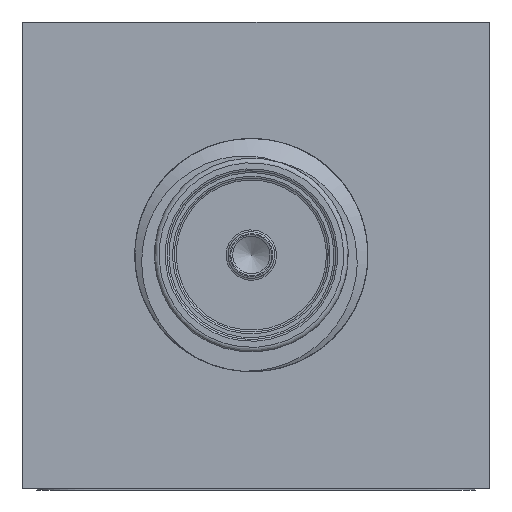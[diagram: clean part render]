
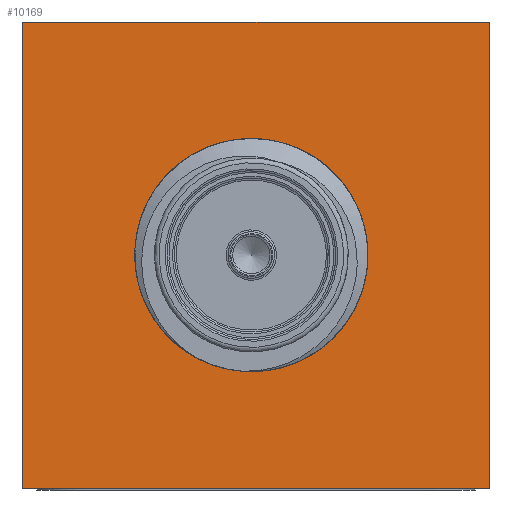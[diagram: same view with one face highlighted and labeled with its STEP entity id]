
A CAD part, left-side view. The second image highlights one B-rep face of the part: STEP entity #10169.
In plain terms, the highlighted planar face has unit normal (-1, 0, 0).
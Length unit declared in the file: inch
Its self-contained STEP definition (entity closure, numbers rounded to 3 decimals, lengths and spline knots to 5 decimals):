
#277 = EDGE_CURVE ( 'NONE', #15702, #12747, #11381, .T. ) ;
#337 = VECTOR ( 'NONE', #11410, 39.37008 ) ;
#1425 = CARTESIAN_POINT ( 'NONE',  ( 38.68632, 40.10366, 37.85561 ) ) ;
#1451 = DIRECTION ( 'NONE',  ( 0., 1., 0. ) ) ;
#2373 = FACE_OUTER_BOUND ( 'NONE', #4536, .T. ) ;
#2685 = PLANE ( 'NONE',  #2766 ) ;
#2766 = AXIS2_PLACEMENT_3D ( 'NONE', #1425, #19273, #7936 ) ;
#3129 = VECTOR ( 'NONE', #1451, 39.37008 ) ;
#4536 = EDGE_LOOP ( 'NONE', ( #17257, #11947, #12061, #13033 ) ) ;
#4842 = VERTEX_POINT ( 'NONE', #20595 ) ;
#4905 = CARTESIAN_POINT ( 'NONE',  ( 38.68632, 39.60366, 37.85561 ) ) ;
#4967 = DIRECTION ( 'NONE',  ( 0., -1., 0. ) ) ;
#6675 = LINE ( 'NONE', #9764, #13998 ) ;
#7936 = DIRECTION ( 'NONE',  ( 0., 0., 1. ) ) ;
#8329 = LINE ( 'NONE', #15072, #19263 ) ;
#9697 = CARTESIAN_POINT ( 'NONE',  ( 38.68632, 39.60366, 40.3203 ) ) ;
#9764 = CARTESIAN_POINT ( 'NONE',  ( 38.68632, 40.10366, 40.3203 ) ) ;
#10169 = ADVANCED_FACE ( 'NONE', ( #2373 ), #2685, .T. ) ;
#11381 = LINE ( 'NONE', #17690, #3129 ) ;
#11410 = DIRECTION ( 'NONE',  ( 0., 0., 1. ) ) ;
#11947 = ORIENTED_EDGE ( 'NONE', *, *, #15071, .T. ) ;
#12061 = ORIENTED_EDGE ( 'NONE', *, *, #13053, .F. ) ;
#12747 = VERTEX_POINT ( 'NONE', #18816 ) ;
#13007 = LINE ( 'NONE', #4905, #337 ) ;
#13033 = ORIENTED_EDGE ( 'NONE', *, *, #19989, .F. ) ;
#13053 = EDGE_CURVE ( 'NONE', #4842, #20170, #6675, .T. ) ;
#13170 = CARTESIAN_POINT ( 'NONE',  ( 38.68632, 39.60366, 39.8203 ) ) ;
#13998 = VECTOR ( 'NONE', #4967, 39.37008 ) ;
#15071 = EDGE_CURVE ( 'NONE', #15702, #20170, #13007, .T. ) ;
#15072 = CARTESIAN_POINT ( 'NONE',  ( 38.68632, 40.10366, 37.85561 ) ) ;
#15702 = VERTEX_POINT ( 'NONE', #13170 ) ;
#16769 = DIRECTION ( 'NONE',  ( 0., 0., 1. ) ) ;
#17257 = ORIENTED_EDGE ( 'NONE', *, *, #277, .F. ) ;
#17690 = CARTESIAN_POINT ( 'NONE',  ( 38.68632, 40.10366, 39.8203 ) ) ;
#18816 = CARTESIAN_POINT ( 'NONE',  ( 38.68632, 40.10366, 39.8203 ) ) ;
#19263 = VECTOR ( 'NONE', #16769, 39.37008 ) ;
#19273 = DIRECTION ( 'NONE',  ( -1., 0., 0. ) ) ;
#19989 = EDGE_CURVE ( 'NONE', #12747, #4842, #8329, .T. ) ;
#20170 = VERTEX_POINT ( 'NONE', #9697 ) ;
#20595 = CARTESIAN_POINT ( 'NONE',  ( 38.68632, 40.10366, 40.3203 ) ) ;
